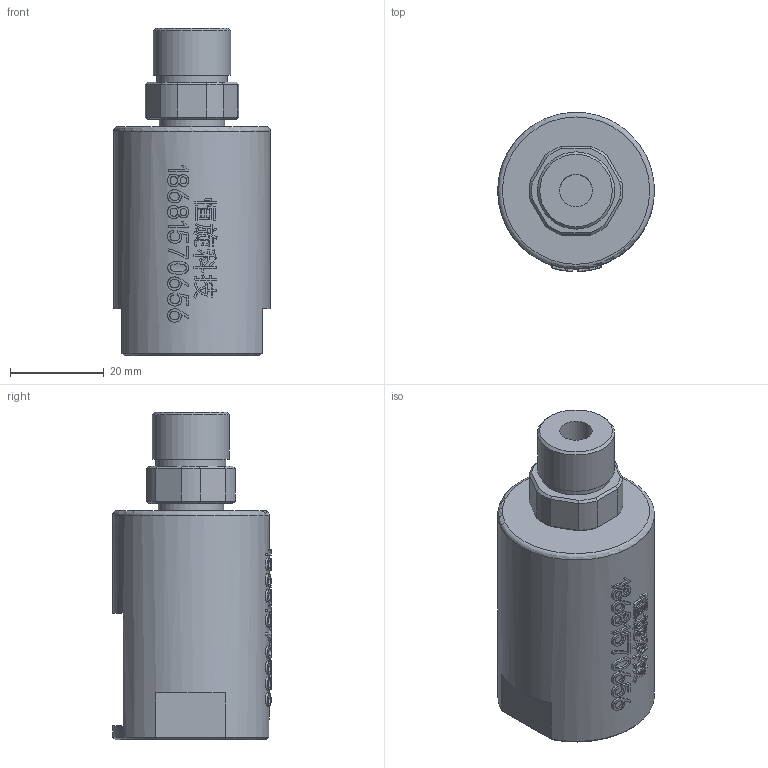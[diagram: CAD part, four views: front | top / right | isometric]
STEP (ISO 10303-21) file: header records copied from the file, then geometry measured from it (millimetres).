
FILE_DESCRIPTION(/* description */ (''),/* implementation_level */ '2;1');
FILE_NAME(/* name */ 'HQY0103.stp',/* time_stamp */ '2025-09-27T17:36:48+08:00',/* author */ (''),/* organization */ (''),/* preprocessor_version */ 'ST-DEVELOPER v16.7',/* originating_system */ 'SIEMENS PLM Software NX 12.0',/* authorisation */ '');
FILE_SCHEMA (('AUTOMOTIVE_DESIGN { 1 0 10303 214 3 1 1 1 }'));
Length unit declared in the file: millimetre
Products named in the file (1): Admi2B88A562883u
Bounding box: 33.49 x 34 x 70 mm (x, y, z)
Volume: 42937.5 mm3; surface area: 10381 mm2
Topology: 1 solids, 1 shells, 378 faces, 964 edges, 633 vertices
Faces by surface type: extrusion 157, plane 154, bspline 27, cylinder 24, cone 15, torus 1
Full cylindrical faces by diameter (mm): 7 x1, 8 x1, 14 x1, 15 x2, 16.5 x1, 33.5 x1
Entity records: 16677 total; most frequent: CARTESIAN_POINT 8350, ORIENTED_EDGE 1892, DIRECTION 1197, EDGE_CURVE 946, VERTEX_POINT 630, VECTOR 577, B_SPLINE_CURVE_WITH_KNOTS 568, EDGE_LOOP 440
